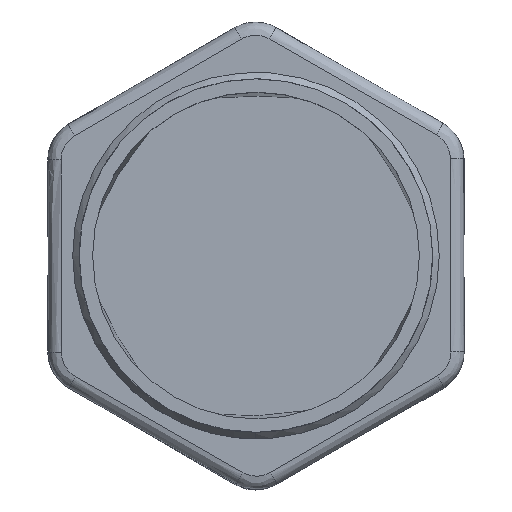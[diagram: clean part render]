
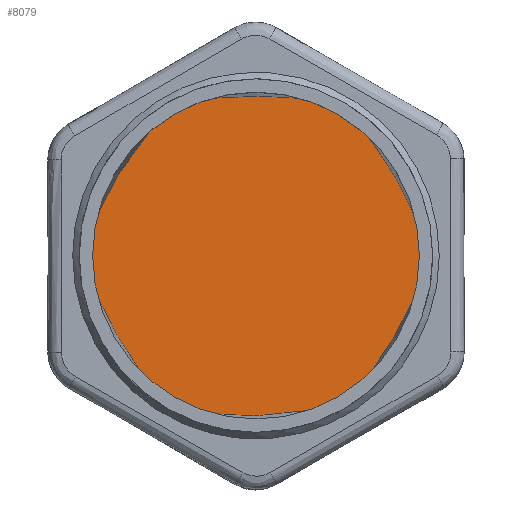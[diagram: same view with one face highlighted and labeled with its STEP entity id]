
A CAD part, top view. The second image highlights one B-rep face of the part: STEP entity #8079.
In plain terms, the highlighted planar face has unit normal (0, 0, 1).
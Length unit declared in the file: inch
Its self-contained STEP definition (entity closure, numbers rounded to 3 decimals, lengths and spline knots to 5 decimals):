
#34 = AXIS2_PLACEMENT_3D ( 'NONE', #7426, #7548, #7549 ) ;
#580 = CARTESIAN_POINT ( 'NONE',  ( 0.54307, 0.30339, 0.06 ) ) ;
#602 = CARTESIAN_POINT ( 'NONE',  ( -0.01346, -0.61831, 0.06 ) ) ;
#608 = CARTESIAN_POINT ( 'NONE',  ( 0.52924, -0.32054, 0.06 ) ) ;
#626 = CARTESIAN_POINT ( 'NONE',  ( 0.01353, 0.61835, 0.06 ) ) ;
#629 = CARTESIAN_POINT ( 'NONE',  ( -0.52875, 0.32081, 0.06 ) ) ;
#641 = CARTESIAN_POINT ( 'NONE',  ( -0.5422, -0.2975, 0.06 ) ) ;
#3433 = B_SPLINE_CURVE_WITH_KNOTS ( 'NONE', 3,
 ( #6668, #6672, #6677, #6678, #6679, #6680 ),
 .UNSPECIFIED., .F., .F.,
 ( 4, 2, 4 ),
 ( 0., 0.00793, 0.01585 ),
 .UNSPECIFIED. ) ;
#5365 = EDGE_CURVE ( 'NONE', #5545, #5591, #7138, .T. ) ;
#5366 = EDGE_CURVE ( 'NONE', #5591, #5594, #7137, .T. ) ;
#5367 = EDGE_CURVE ( 'NONE', #5594, #5606, #7136, .T. ) ;
#5368 = EDGE_CURVE ( 'NONE', #5606, #5567, #7135, .T. ) ;
#5369 = EDGE_CURVE ( 'NONE', #5567, #5573, #7134, .T. ) ;
#5370 = EDGE_CURVE ( 'NONE', #5573, #5545, #3433, .T. ) ;
#5545 = VERTEX_POINT ( 'NONE', #580 ) ;
#5567 = VERTEX_POINT ( 'NONE', #602 ) ;
#5573 = VERTEX_POINT ( 'NONE', #608 ) ;
#5591 = VERTEX_POINT ( 'NONE', #626 ) ;
#5594 = VERTEX_POINT ( 'NONE', #629 ) ;
#5606 = VERTEX_POINT ( 'NONE', #641 ) ;
#5677 = EDGE_LOOP ( 'NONE', ( #8014, #8013, #8012, #8011, #8010, #8009 ) ) ;
#6637 = CARTESIAN_POINT ( 'NONE',  ( 0.18972, 0.51282, 0.06 ) ) ;
#6638 = CARTESIAN_POINT ( 'NONE',  ( 0.36624, 0.40785, 0.06 ) ) ;
#6655 = CARTESIAN_POINT ( 'NONE',  ( -0.16766, 0.51996, 0.06 ) ) ;
#6656 = CARTESIAN_POINT ( 'NONE',  ( 0.54307, 0.30339, 0.06 ) ) ;
#6657 = CARTESIAN_POINT ( 'NONE',  ( -0.52875, 0.32081, 0.06 ) ) ;
#6658 = CARTESIAN_POINT ( 'NONE',  ( 0.01353, 0.61835, 0.06 ) ) ;
#6659 = CARTESIAN_POINT ( 'NONE',  ( -0.53414, 0.11473, 0.06 ) ) ;
#6660 = CARTESIAN_POINT ( 'NONE',  ( 0.01353, 0.61835, 0.06 ) ) ;
#6661 = CARTESIAN_POINT ( 'NONE',  ( -0.5422, -0.2975, 0.06 ) ) ;
#6662 = CARTESIAN_POINT ( 'NONE',  ( -0.34837, 0.42068, 0.06 ) ) ;
#6663 = CARTESIAN_POINT ( 'NONE',  ( -0.52875, 0.32081, 0.06 ) ) ;
#6664 = CARTESIAN_POINT ( 'NONE',  ( -0.01346, -0.61831, 0.06 ) ) ;
#6665 = CARTESIAN_POINT ( 'NONE',  ( -0.36642, -0.40521, 0.06 ) ) ;
#6666 = CARTESIAN_POINT ( 'NONE',  ( -0.5385, -0.09138, 0.06 ) ) ;
#6667 = CARTESIAN_POINT ( 'NONE',  ( -0.5422, -0.2975, 0.06 ) ) ;
#6668 = CARTESIAN_POINT ( 'NONE',  ( 0.52924, -0.32054, 0.06 ) ) ;
#6669 = CARTESIAN_POINT ( 'NONE',  ( 0.16788, -0.51985, 0.06 ) ) ;
#6670 = CARTESIAN_POINT ( 'NONE',  ( -0.19011, -0.51205, 0.06 ) ) ;
#6671 = CARTESIAN_POINT ( 'NONE',  ( -0.01346, -0.61831, 0.06 ) ) ;
#6672 = CARTESIAN_POINT ( 'NONE',  ( 0.53292, -0.21658, 0.06 ) ) ;
#6673 = CARTESIAN_POINT ( 'NONE',  ( 0.34872, -0.42048, 0.06 ) ) ;
#6674 = CARTESIAN_POINT ( 'NONE',  ( 0.52924, -0.32054, 0.06 ) ) ;
#6677 = CARTESIAN_POINT ( 'NONE',  ( 0.53564, -0.1126, 0.06 ) ) ;
#6678 = CARTESIAN_POINT ( 'NONE',  ( 0.54003, 0.09538, 0.06 ) ) ;
#6679 = CARTESIAN_POINT ( 'NONE',  ( 0.5417, 0.19939, 0.06 ) ) ;
#6680 = CARTESIAN_POINT ( 'NONE',  ( 0.54307, 0.30339, 0.06 ) ) ;
#7134 = B_SPLINE_CURVE_WITH_KNOTS ( 'NONE', 3,
 ( #6664, #6669, #6673, #6674 ),
 .UNSPECIFIED., .F., .F.,
 ( 4, 4 ),
 ( 0., 0.01572 ),
 .UNSPECIFIED. ) ;
#7135 = B_SPLINE_CURVE_WITH_KNOTS ( 'NONE', 3,
 ( #6661, #6665, #6670, #6671 ),
 .UNSPECIFIED., .F., .F.,
 ( 4, 4 ),
 ( 0., 0.01571 ),
 .UNSPECIFIED. ) ;
#7136 = B_SPLINE_CURVE_WITH_KNOTS ( 'NONE', 3,
 ( #6657, #6659, #6666, #6667 ),
 .UNSPECIFIED., .F., .F.,
 ( 4, 4 ),
 ( 0., 0.01571 ),
 .UNSPECIFIED. ) ;
#7137 = B_SPLINE_CURVE_WITH_KNOTS ( 'NONE', 3,
 ( #6660, #6655, #6662, #6663 ),
 .UNSPECIFIED., .F., .F.,
 ( 4, 4 ),
 ( 0., 0.01571 ),
 .UNSPECIFIED. ) ;
#7138 = B_SPLINE_CURVE_WITH_KNOTS ( 'NONE', 3,
 ( #6656, #6638, #6637, #6658 ),
 .UNSPECIFIED., .F., .F.,
 ( 4, 4 ),
 ( 0., 0.01565 ),
 .UNSPECIFIED. ) ;
#7426 = CARTESIAN_POINT ( 'NONE',  ( -0.625, 0.36084, 0.06 ) ) ;
#7436 = FACE_OUTER_BOUND ( 'NONE', #5677, .T. ) ;
#7545 = PLANE ( 'NONE',  #34 ) ;
#7548 = DIRECTION ( 'NONE',  ( 0., 0., 1. ) ) ;
#7549 = DIRECTION ( 'NONE',  ( 1., 0., 0. ) ) ;
#8009 = ORIENTED_EDGE ( 'NONE', *, *, #5370, .T. ) ;
#8010 = ORIENTED_EDGE ( 'NONE', *, *, #5369, .T. ) ;
#8011 = ORIENTED_EDGE ( 'NONE', *, *, #5368, .T. ) ;
#8012 = ORIENTED_EDGE ( 'NONE', *, *, #5367, .T. ) ;
#8013 = ORIENTED_EDGE ( 'NONE', *, *, #5366, .T. ) ;
#8014 = ORIENTED_EDGE ( 'NONE', *, *, #5365, .T. ) ;
#8079 = ADVANCED_FACE ( 'NONE', ( #7436 ), #7545, .T. ) ;
